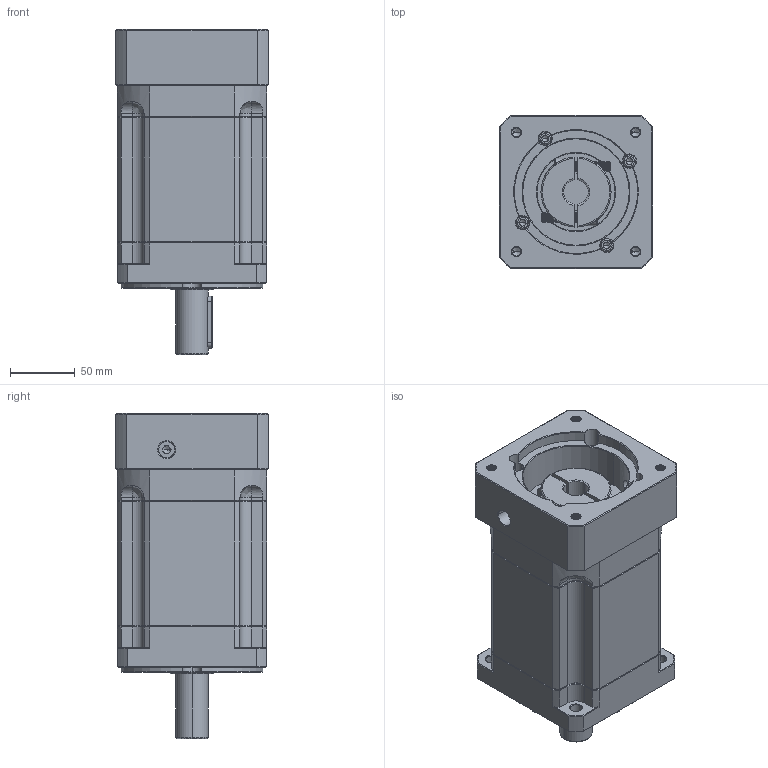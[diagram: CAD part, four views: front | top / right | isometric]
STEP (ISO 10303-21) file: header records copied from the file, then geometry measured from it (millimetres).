
FILE_DESCRIPTION (( 'STEP AP214' ), '1' );
FILE_NAME ('ZB115A-D25-L3-19-95-130-M8.step', '2023-03-02T08:58:27', ( '' ), ( 'Microsoft' ), 'SwSTEP 2.0', 'SolidWorks 2016', '' );
FILE_SCHEMA (( 'AUTOMOTIVE_DESIGN' ));
Length unit declared in the file: millimetre
Products named in the file (1): ZB115A-D25-L3-19-95-130-M8
Bounding box: 118 x 118 x 250.5 mm (x, y, z)
Volume: 2223158.7 mm3; surface area: 193631 mm2
Topology: 6 solids, 6 shells, 2124 faces, 5501 edges, 3468 vertices
Faces by surface type: plane 964, cylinder 444, cone 371, bspline 325, torus 20
Entity records: 113615 total; most frequent: CARTESIAN_POINT 41285, ORIENTED_EDGE 10934, DIRECTION 8975, EDGE_CURVE 5467, VERTEX_POINT 3468, VECTOR 3381, LINE 3381, AXIS2_PLACEMENT_3D 2797
